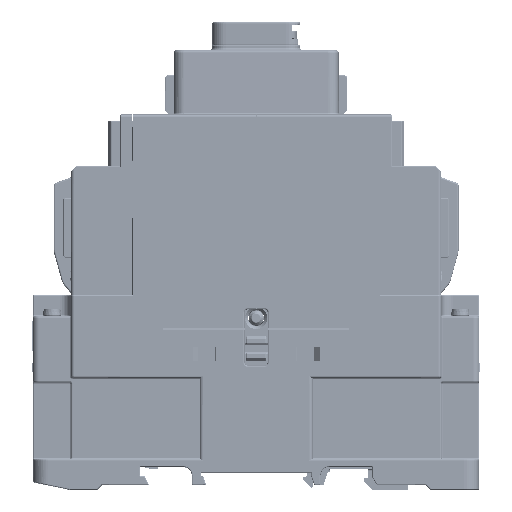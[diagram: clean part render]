
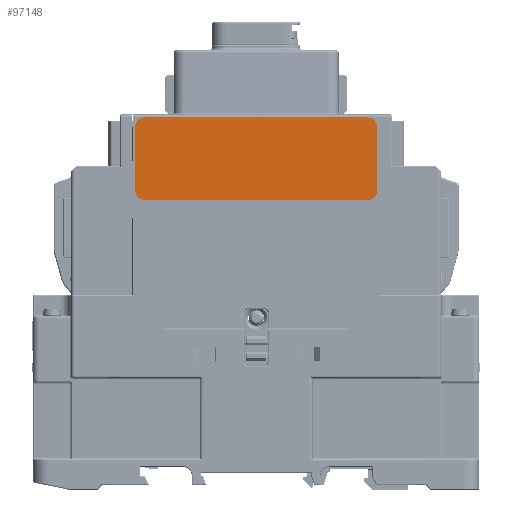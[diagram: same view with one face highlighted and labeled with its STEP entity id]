
A CAD part, top view. The second image highlights one B-rep face of the part: STEP entity #97148.
In plain terms, the highlighted planar face has unit normal (0, 0, 1).
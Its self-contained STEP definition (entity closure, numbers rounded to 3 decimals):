
#24861=PLANE('',#362096);
#44447=LINE('',#576848,#73047);
#44452=LINE('',#576862,#73052);
#44456=LINE('',#576874,#73056);
#44460=LINE('',#576886,#73060);
#73047=VECTOR('',#431789,1.);
#73052=VECTOR('',#431802,1.);
#73056=VECTOR('',#431814,1.);
#73060=VECTOR('',#431826,1.);
#97148=ADVANCED_FACE('',(#117956),#24861,.T.);
#117956=FACE_OUTER_BOUND('',#138096,.T.);
#138096=EDGE_LOOP('',(#202564,#202565,#202566,#202567,#202568,#202569,#202570,
#202571));
#202564=ORIENTED_EDGE('',*,*,#306478,.T.);
#202565=ORIENTED_EDGE('',*,*,#306482,.T.);
#202566=ORIENTED_EDGE('',*,*,#306485,.T.);
#202567=ORIENTED_EDGE('',*,*,#306488,.T.);
#202568=ORIENTED_EDGE('',*,*,#306491,.T.);
#202569=ORIENTED_EDGE('',*,*,#306494,.T.);
#202570=ORIENTED_EDGE('',*,*,#306497,.T.);
#202571=ORIENTED_EDGE('',*,*,#306499,.T.);
#264975=VERTEX_POINT('',#576847);
#264976=VERTEX_POINT('',#576849);
#264978=VERTEX_POINT('',#576855);
#264980=VERTEX_POINT('',#576861);
#264982=VERTEX_POINT('',#576867);
#264984=VERTEX_POINT('',#576873);
#264986=VERTEX_POINT('',#576879);
#264988=VERTEX_POINT('',#576885);
#306478=EDGE_CURVE('',#264976,#264975,#44447,.T.);
#306482=EDGE_CURVE('',#264975,#264978,#337054,.T.);
#306485=EDGE_CURVE('',#264978,#264980,#44452,.T.);
#306488=EDGE_CURVE('',#264980,#264982,#337056,.T.);
#306491=EDGE_CURVE('',#264982,#264984,#44456,.T.);
#306494=EDGE_CURVE('',#264984,#264986,#337058,.T.);
#306497=EDGE_CURVE('',#264986,#264988,#44460,.T.);
#306499=EDGE_CURVE('',#264988,#264976,#337060,.T.);
#337054=CIRCLE('',#362082,3.);
#337056=CIRCLE('',#362086,3.);
#337058=CIRCLE('',#362090,3.);
#337060=CIRCLE('',#362094,3.);
#362082=AXIS2_PLACEMENT_3D('',#576856,#431796,#431797);
#362086=AXIS2_PLACEMENT_3D('',#576868,#431808,#431809);
#362090=AXIS2_PLACEMENT_3D('',#576880,#431820,#431821);
#362094=AXIS2_PLACEMENT_3D('',#576889,#431831,#431832);
#362096=AXIS2_PLACEMENT_3D('',#576891,#431835,#431836);
#431789=DIRECTION('',(1.,0.,0.));
#431796=DIRECTION('',(0.,0.,1.));
#431797=DIRECTION('',(0.,1.,0.));
#431802=DIRECTION('',(0.,1.,0.));
#431808=DIRECTION('',(0.,0.,1.));
#431809=DIRECTION('',(0.,1.,0.));
#431814=DIRECTION('',(-1.,0.,0.));
#431820=DIRECTION('',(0.,0.,1.));
#431821=DIRECTION('',(0.,1.,0.));
#431826=DIRECTION('',(0.,-1.,0.));
#431831=DIRECTION('',(0.,0.,1.));
#431832=DIRECTION('',(0.,1.,0.));
#431835=DIRECTION('',(0.,0.,1.));
#431836=DIRECTION('',(0.,1.,0.));
#576847=CARTESIAN_POINT('',(49.006,-175.8,35.2));
#576848=CARTESIAN_POINT('',(-23.994,-175.8,35.2));
#576849=CARTESIAN_POINT('',(-23.994,-175.8,35.2));
#576855=CARTESIAN_POINT('',(52.006,-172.8,35.2));
#576856=CARTESIAN_POINT('',(49.006,-172.8,35.2));
#576861=CARTESIAN_POINT('',(52.006,-151.8,35.2));
#576862=CARTESIAN_POINT('',(52.006,-172.8,35.2));
#576867=CARTESIAN_POINT('',(49.006,-148.8,35.2));
#576868=CARTESIAN_POINT('',(49.006,-151.8,35.2));
#576873=CARTESIAN_POINT('',(-23.994,-148.8,35.2));
#576874=CARTESIAN_POINT('',(49.006,-148.8,35.2));
#576879=CARTESIAN_POINT('',(-26.994,-151.8,35.2));
#576880=CARTESIAN_POINT('',(-23.994,-151.8,35.2));
#576885=CARTESIAN_POINT('',(-26.994,-172.8,35.2));
#576886=CARTESIAN_POINT('',(-26.994,-151.8,35.2));
#576889=CARTESIAN_POINT('',(-23.994,-172.8,35.2));
#576891=CARTESIAN_POINT('',(49.006,-172.8,35.2));
